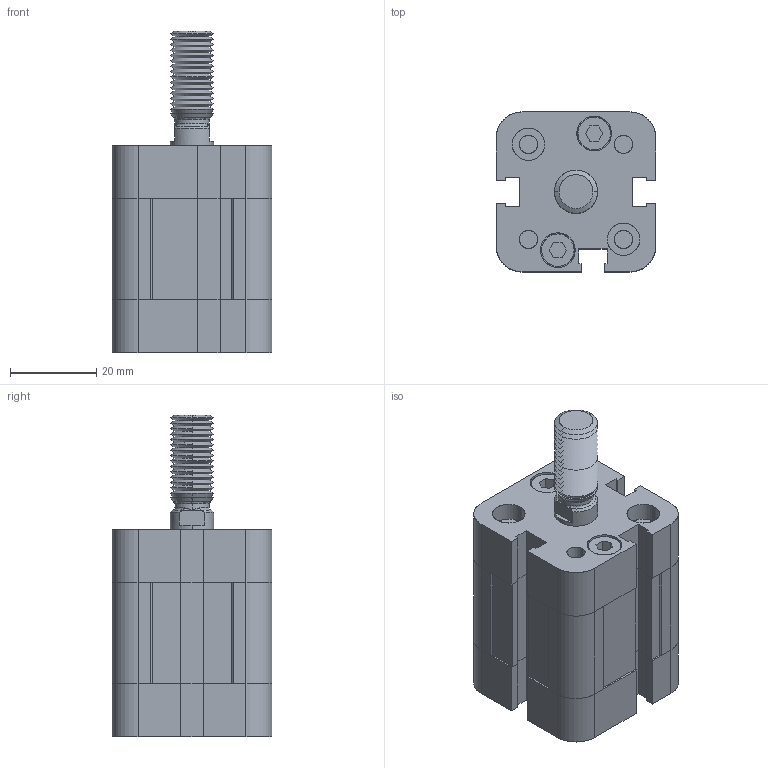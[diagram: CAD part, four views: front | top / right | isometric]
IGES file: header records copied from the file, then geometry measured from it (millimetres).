
Start section: SolidWorks IGES file using analytic representation for surfaces
Global section: file name: c:\CATALO3D\IGS\NSKU020.0010 M.IGS; native system: SolidWorks 2009; preprocessor: SolidWorks 2009; author: utente16; date: 100616.144210; units: millimetre
Bounding box: 37 x 37 x 74.5 mm (x, y, z)
Surface area: 24484.6 mm2 (no closed solid volume)
Topology: 0 solids, 0 shells, 563 faces, 10583 edges, 13341 vertices
Faces by surface type: bspline 295, revolution 268
